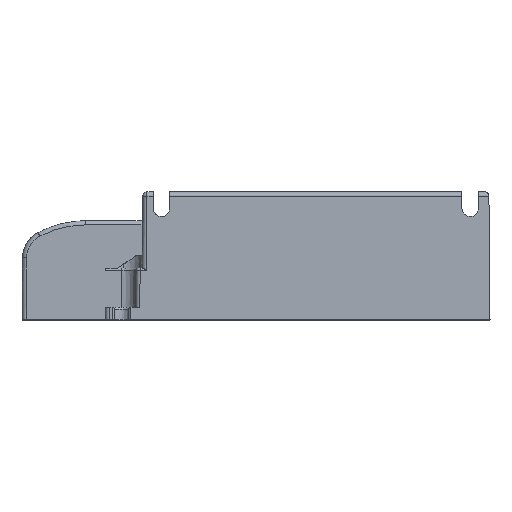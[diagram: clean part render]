
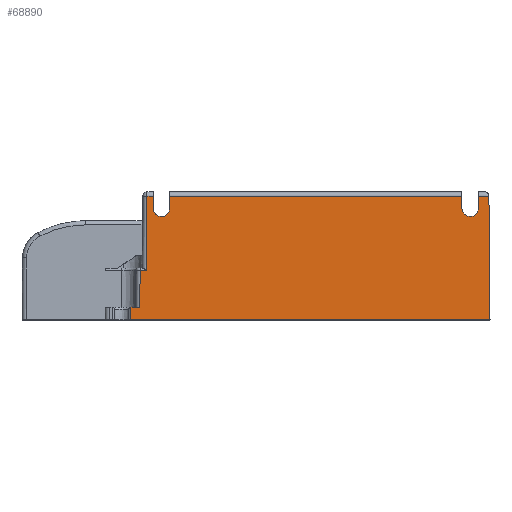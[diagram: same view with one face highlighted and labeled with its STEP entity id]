
A CAD part, top view. The second image highlights one B-rep face of the part: STEP entity #68890.
In plain terms, the highlighted planar face has unit normal (0, 0.009, 1) as drawn and (0, 0.009, -1) by its records, which use the part's own axes.
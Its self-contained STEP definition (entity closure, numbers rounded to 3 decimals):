
#67280=CARTESIAN_POINT('',(38.254,12.004,
-33.395));
#67290=VERTEX_POINT('',#67280);
#67410=CARTESIAN_POINT('',(36.754,12.004,
-33.395));
#67420=VERTEX_POINT('',#67410);
#67450=CARTESIAN_POINT('',(36.754,12.004,
-33.395));
#67460=DIRECTION('',(1.,0.,0.));
#67470=VECTOR('',#67460,1.);
#67480=LINE('',#67450,#67470);
#67490=EDGE_CURVE('',#67420,#67290,#67480,.T.);
#67610=CARTESIAN_POINT('',(-3.125,15.004,-33.369
));
#67620=DIRECTION('',(0.,-0.009,1.));
#67630=DIRECTION('',(-1.,0.,0.));
#67640=AXIS2_PLACEMENT_3D('',#67610,#67620,#67630);
#67650=PLANE('',#67640);
#67660=CARTESIAN_POINT('',(36.754,12.004,
-33.395));
#67670=DIRECTION('',(-0.009,1.,
0.009));
#67680=VECTOR('',#67670,1.);
#67690=LINE('',#67660,#67680);
#67700=CARTESIAN_POINT('',(36.597,30.009,
-33.238));
#67710=VERTEX_POINT('',#67700);
#67720=EDGE_CURVE('',#67420,#67710,#67690,.T.);
#67730=ORIENTED_EDGE('',*,*,#67720,.F.);
#67740=CARTESIAN_POINT('',(35.055,30.009,
-33.238));
#67750=DIRECTION('',(1.,0.,0.));
#67760=VECTOR('',#67750,1.);
#67770=LINE('',#67740,#67760);
#67780=CARTESIAN_POINT('',(35.055,30.009,
-33.238));
#67790=VERTEX_POINT('',#67780);
#67800=EDGE_CURVE('',#67790,#67710,#67770,.T.);
#67810=ORIENTED_EDGE('',*,*,#67800,.T.);
#67820=CARTESIAN_POINT('',(35.055,27.,
-33.264));
#67830=DIRECTION('',(0.,1.,0.009));
#67840=VECTOR('',#67830,1.);
#67850=LINE('',#67820,#67840);
#67860=CARTESIAN_POINT('',(35.055,27.,
-33.264));
#67870=VERTEX_POINT('',#67860);
#67880=EDGE_CURVE('',#67870,#67790,#67850,.T.);
#67890=ORIENTED_EDGE('',*,*,#67880,.T.);
#67900=CARTESIAN_POINT('',(33.055,27.,-33.264));
#67910=DIRECTION('',(0.,-0.009,1.));
#67920=DIRECTION('',(0.,1.,0.009));
#67930=AXIS2_PLACEMENT_3D('',#67900,#67910,#67920);
#67940=ELLIPSE('',#67930,2.,2.);
#67950=CARTESIAN_POINT('',(31.055,27.,
-33.264));
#67960=VERTEX_POINT('',#67950);
#67970=EDGE_CURVE('',#67960,#67870,#67940,.T.);
#67980=ORIENTED_EDGE('',*,*,#67970,.T.);
#67990=CARTESIAN_POINT('',(31.055,30.009,
-33.238));
#68000=DIRECTION('',(0.,-1.,-0.009));
#68010=VECTOR('',#68000,1.);
#68020=LINE('',#67990,#68010);
#68030=CARTESIAN_POINT('',(31.055,30.009,
-33.238));
#68040=VERTEX_POINT('',#68030);
#68050=EDGE_CURVE('',#68040,#67960,#68020,.T.);
#68060=ORIENTED_EDGE('',*,*,#68050,.T.);
#68070=CARTESIAN_POINT('',(-39.945,30.009,
-33.238));
#68080=DIRECTION('',(1.,0.,0.));
#68090=VECTOR('',#68080,1.);
#68100=LINE('',#68070,#68090);
#68110=CARTESIAN_POINT('',(-39.945,30.009,
-33.238));
#68120=VERTEX_POINT('',#68110);
#68130=EDGE_CURVE('',#68120,#68040,#68100,.T.);
#68140=ORIENTED_EDGE('',*,*,#68130,.T.);
#68150=CARTESIAN_POINT('',(-39.945,27.,
-33.264));
#68160=DIRECTION('',(0.,1.,0.009));
#68170=VECTOR('',#68160,1.);
#68180=LINE('',#68150,#68170);
#68190=CARTESIAN_POINT('',(-39.945,27.,
-33.264));
#68200=VERTEX_POINT('',#68190);
#68210=EDGE_CURVE('',#68200,#68120,#68180,.T.);
#68220=ORIENTED_EDGE('',*,*,#68210,.T.);
#68230=CARTESIAN_POINT('',(-41.945,27.,-33.264));
#68240=DIRECTION('',(0.,-0.009,1.));
#68250=DIRECTION('',(0.,1.,0.009));
#68260=AXIS2_PLACEMENT_3D('',#68230,#68240,#68250);
#68270=ELLIPSE('',#68260,2.,2.);
#68280=CARTESIAN_POINT('',(-43.945,27.,
-33.264));
#68290=VERTEX_POINT('',#68280);
#68300=EDGE_CURVE('',#68290,#68200,#68270,.T.);
#68310=ORIENTED_EDGE('',*,*,#68300,.T.);
#68320=CARTESIAN_POINT('',(-43.945,30.009,
-33.238));
#68330=DIRECTION('',(0.,-1.,-0.009));
#68340=VECTOR('',#68330,1.);
#68350=LINE('',#68320,#68340);
#68360=CARTESIAN_POINT('',(-43.945,30.009,
-33.238));
#68370=VERTEX_POINT('',#68360);
#68380=EDGE_CURVE('',#68370,#68290,#68350,.T.);
#68390=ORIENTED_EDGE('',*,*,#68380,.T.);
#68400=CARTESIAN_POINT('',(-46.488,30.009,
-33.238));
#68410=DIRECTION('',(1.,0.,0.));
#68420=VECTOR('',#68410,1.);
#68430=LINE('',#68400,#68420);
#68440=CARTESIAN_POINT('',(-46.488,30.009,
-33.238));
#68450=VERTEX_POINT('',#68440);
#68460=EDGE_CURVE('',#68450,#68370,#68430,.T.);
#68470=ORIENTED_EDGE('',*,*,#68460,.T.);
#68480=CARTESIAN_POINT('',(-46.75,0.,
-33.5));
#68490=DIRECTION('',(0.009,1.,
0.009));
#68500=VECTOR('',#68490,1.);
#68510=LINE('',#68480,#68500);
#68520=CARTESIAN_POINT('',(-46.75,0.,-33.5));
#68530=VERTEX_POINT('',#68520);
#68540=EDGE_CURVE('',#68530,#68450,#68510,.T.);
#68550=ORIENTED_EDGE('',*,*,#68540,.T.);
#68560=CARTESIAN_POINT('',(40.5,0.,-33.5));
#68570=DIRECTION('',(-1.,0.,0.));
#68580=VECTOR('',#68570,1.);
#68590=LINE('',#68560,#68580);
#68600=CARTESIAN_POINT('',(40.5,0.,
-33.5));
#68610=VERTEX_POINT('',#68600);
#68620=EDGE_CURVE('',#68610,#68530,#68590,.T.);
#68630=ORIENTED_EDGE('',*,*,#68620,.T.);
#68640=CARTESIAN_POINT('',(40.5,0.,
-33.5));
#68650=DIRECTION('',(-0.008,1.,
0.009));
#68660=VECTOR('',#68650,1.);
#68670=LINE('',#68640,#68660);
#68680=CARTESIAN_POINT('',(40.476,3.,-33.474));
#68690=VERTEX_POINT('',#68680);
#68700=EDGE_CURVE('',#68610,#68690,#68670,.T.);
#68710=ORIENTED_EDGE('',*,*,#68700,.F.);
#68720=CARTESIAN_POINT('',(38.333,3.,-33.474));
#68730=DIRECTION('',(1.,0.,0.));
#68740=VECTOR('',#68730,1.);
#68750=LINE('',#68720,#68740);
#68760=CARTESIAN_POINT('',(38.333,3.,
-33.474));
#68770=VERTEX_POINT('',#68760);
#68780=EDGE_CURVE('',#68770,#68690,#68750,.T.);
#68790=ORIENTED_EDGE('',*,*,#68780,.T.);
#68800=CARTESIAN_POINT('',(38.333,3.,
-33.474));
#68810=DIRECTION('',(-0.009,1.,
0.009));
#68820=VECTOR('',#68810,1.);
#68830=LINE('',#68800,#68820);
#68840=EDGE_CURVE('',#68770,#67290,#68830,.T.);
#68850=ORIENTED_EDGE('',*,*,#68840,.F.);
#68860=ORIENTED_EDGE('',*,*,#67490,.T.);
#68870=EDGE_LOOP('',(#68860,#68850,#68790,#68710,#68630,#68550,#68470,
#68390,#68310,#68220,#68140,#68060,#67980,#67890,#67810,#67730));
#68880=FACE_OUTER_BOUND('',#68870,.T.);
#68890=ADVANCED_FACE('',(#68880),#67650,.F.);
